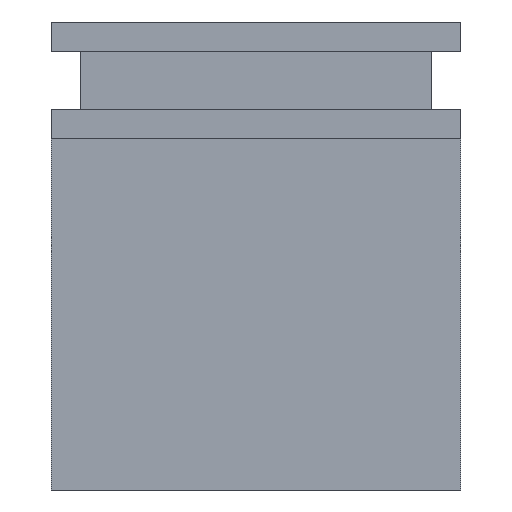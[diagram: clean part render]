
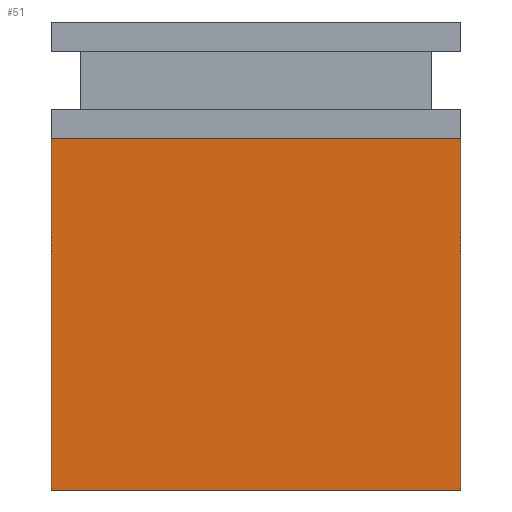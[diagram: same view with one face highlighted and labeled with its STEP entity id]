
A CAD part, left-side view. The second image highlights one B-rep face of the part: STEP entity #51.
In plain terms, the highlighted planar face has unit normal (-1, 0, 0).
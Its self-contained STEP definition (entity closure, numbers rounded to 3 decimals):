
#51=ADVANCED_FACE('',(#141),#1161,.T.);
#141=FACE_OUTER_BOUND('',#231,.T.);
#231=EDGE_LOOP('',(#348,#349,#350,#351));
#348=ORIENTED_EDGE('',*,*,#694,.T.);
#349=ORIENTED_EDGE('',*,*,#693,.F.);
#350=ORIENTED_EDGE('',*,*,#695,.T.);
#351=ORIENTED_EDGE('',*,*,#685,.F.);
#685=EDGE_CURVE('',#1041,#1042,#865,.T.);
#693=EDGE_CURVE('',#1047,#1046,#873,.T.);
#694=EDGE_CURVE('',#1041,#1046,#874,.T.);
#695=EDGE_CURVE('',#1047,#1042,#875,.T.);
#865=B_SPLINE_CURVE_WITH_KNOTS('',1,(#1570,#1571),.UNSPECIFIED.,.F.,.F.,
(2,2),(0.,300.),.UNSPECIFIED.);
#873=B_SPLINE_CURVE_WITH_KNOTS('',1,(#1586,#1587),.UNSPECIFIED.,.F.,.F.,
(2,2),(0.,300.),.UNSPECIFIED.);
#874=B_SPLINE_CURVE_WITH_KNOTS('',1,(#1588,#1589),.UNSPECIFIED.,.F.,.F.,
(2,2),(0.,350.),.UNSPECIFIED.);
#875=B_SPLINE_CURVE_WITH_KNOTS('',1,(#1590,#1591),.UNSPECIFIED.,.F.,.F.,
(2,2),(0.,350.),.UNSPECIFIED.);
#1041=VERTEX_POINT('',#1561);
#1042=VERTEX_POINT('',#1562);
#1046=VERTEX_POINT('',#1566);
#1047=VERTEX_POINT('',#1567);
#1161=PLANE('',#1339);
#1339=AXIS2_PLACEMENT_3D('',#1557,#1432,$);
#1432=DIRECTION('',(-1.,0.,0.));
#1557=CARTESIAN_POINT('',(-700.,210.12,-30.12));
#1561=CARTESIAN_POINT('',(-700.,175.,0.));
#1562=CARTESIAN_POINT('',(-700.,175.,300.));
#1566=CARTESIAN_POINT('',(-700.,-175.,0.));
#1567=CARTESIAN_POINT('',(-700.,-175.,300.));
#1570=CARTESIAN_POINT('',(-700.,175.,0.));
#1571=CARTESIAN_POINT('',(-700.,175.,300.));
#1586=CARTESIAN_POINT('',(-700.,-175.,300.));
#1587=CARTESIAN_POINT('',(-700.,-175.,0.));
#1588=CARTESIAN_POINT('',(-700.,175.,0.));
#1589=CARTESIAN_POINT('',(-700.,-175.,0.));
#1590=CARTESIAN_POINT('',(-700.,-175.,300.));
#1591=CARTESIAN_POINT('',(-700.,175.,300.));
